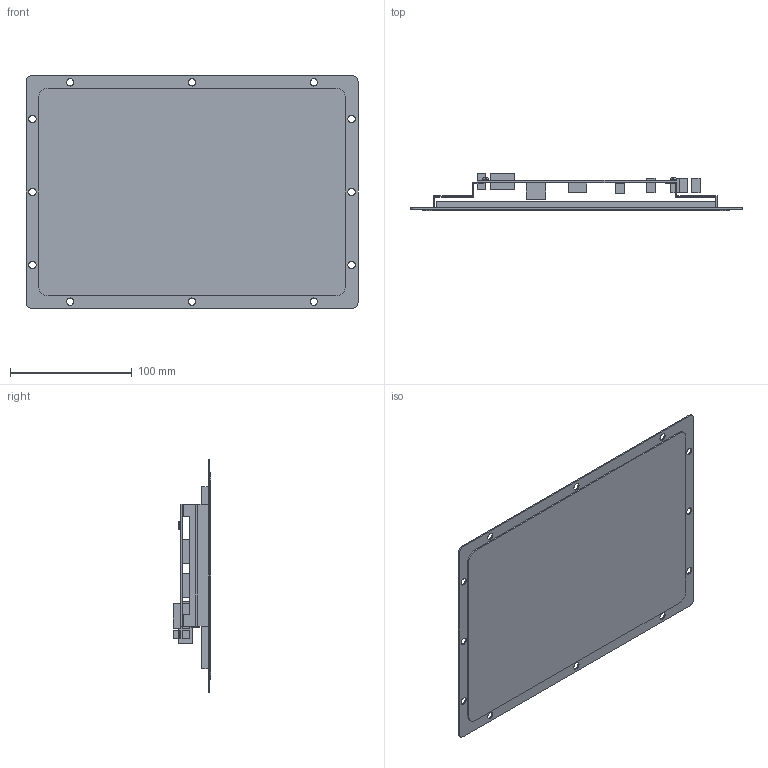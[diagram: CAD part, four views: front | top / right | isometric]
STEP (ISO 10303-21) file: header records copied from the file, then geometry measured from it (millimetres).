
FILE_DESCRIPTION(/* description */ (''),/* implementation_level */ '2;1');
FILE_NAME(/* name */ '/Users/appleid/Google Drive/ines_joerg/Hauskauf/Zeichnungen/Fusion/Display Smarthome 10 Zoll v8.step',/* time_stamp */ '2020-09-15T11:04:49+02:00',/* author */ (''),/* organization */ (''),/* preprocessor_version */ 'ST-DEVELOPER v18.1',/* originating_system */ 'Autodesk Translation Framework v9.3.0.1241',/* authorisation */ '');
FILE_SCHEMA (('AUTOMOTIVE_DESIGN { 1 0 10303 214 3 1 1 }'));
Length unit declared in the file: millimetre
Products named in the file (12): Display Smarthome 10 Zoll; GlasScheibe; DruckAufGlas; DisplayModul; MetallRahmen; Platine; SteckerIO; LANStecker; USBStecker; Mäuseklavier; Phoenex; Schraube
Assembly tree (22 placements, depth 2):
  Display Smarthome 10 Zoll
    GlasScheibe
    DruckAufGlas
    DisplayModul
    MetallRahmen
    Platine
    SteckerIO  x6
    LANStecker
    USBStecker
    Mäuseklavier
    Phoenex  x4
    Schraube  x4
Bounding box: 272.56 x 30.7 x 191.2 mm (x, y, z)
Volume: 332935.9 mm3; surface area: 285493.8 mm2
Topology: 25 solids, 25 shells, 270 faces, 662 edges, 442 vertices
Faces by surface type: plane 230, cylinder 36, torus 4
Full cylindrical faces by diameter (mm): 5 x4, 6 x12
Entity records: 5381 total; most frequent: CARTESIAN_POINT 923, DIRECTION 855, ORIENTED_EDGE 808, EDGE_CURVE 404, LINE 319, VECTOR 319, VERTEX_POINT 270, AXIS2_PLACEMENT_3D 268
